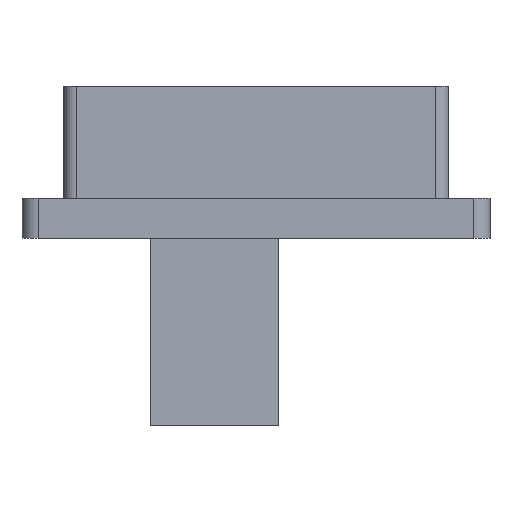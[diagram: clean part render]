
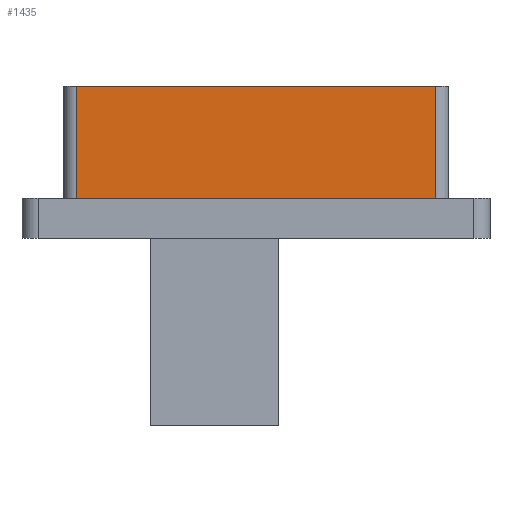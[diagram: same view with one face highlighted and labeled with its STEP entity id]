
A CAD part, left-side view. The second image highlights one B-rep face of the part: STEP entity #1435.
In plain terms, the highlighted planar face has unit normal (-1, 0, 0).
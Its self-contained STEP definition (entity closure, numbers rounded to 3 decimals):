
#44 = PLANE('',#45);
#45 = AXIS2_PLACEMENT_3D('',#46,#47,#48);
#46 = CARTESIAN_POINT('',(95.5,-77.2,20.9));
#47 = DIRECTION('',(0.,0.,1.));
#48 = DIRECTION('',(1.,0.,0.));
#446 = VERTEX_POINT('',#447);
#447 = CARTESIAN_POINT('',(100.,-73.8,20.9));
#464 = CYLINDRICAL_SURFACE('',#465,0.8);
#465 = AXIS2_PLACEMENT_3D('',#466,#467,#468);
#466 = CARTESIAN_POINT('',(100.8,-73.8,18.4));
#467 = DIRECTION('',(0.,0.,1.));
#468 = DIRECTION('',(-1.,-0.,0.));
#476 = EDGE_CURVE('',#446,#477,#479,.T.);
#477 = VERTEX_POINT('',#478);
#478 = CARTESIAN_POINT('',(100.,-51.4,20.9));
#479 = SURFACE_CURVE('',#480,(#484,#490),.PCURVE_S1.);
#480 = LINE('',#481,#482);
#481 = CARTESIAN_POINT('',(100.,-75.9,20.9));
#482 = VECTOR('',#483,1.);
#483 = DIRECTION('',(0.,1.,0.));
#484 = PCURVE('',#44,#485);
#485 = DEFINITIONAL_REPRESENTATION('',(#486),#489);
#486 = B_SPLINE_CURVE_WITH_KNOTS('',1,(#487,#488),.UNSPECIFIED.,.F.,.F.,
  (2,2),(2.1,24.5),.PIECEWISE_BEZIER_KNOTS.);
#487 = CARTESIAN_POINT('',(4.5,3.4));
#488 = CARTESIAN_POINT('',(4.5,25.8));
#489 = ( GEOMETRIC_REPRESENTATION_CONTEXT(2) 
PARAMETRIC_REPRESENTATION_CONTEXT() REPRESENTATION_CONTEXT('2D SPACE',''
  ) );
#490 = PCURVE('',#491,#496);
#491 = PLANE('',#492);
#492 = AXIS2_PLACEMENT_3D('',#493,#494,#495);
#493 = CARTESIAN_POINT('',(100.,-74.6,18.4));
#494 = DIRECTION('',(1.,0.,0.));
#495 = DIRECTION('',(0.,0.,1.));
#496 = DEFINITIONAL_REPRESENTATION('',(#497),#500);
#497 = B_SPLINE_CURVE_WITH_KNOTS('',1,(#498,#499),.UNSPECIFIED.,.F.,.F.,
  (2,2),(2.1,24.5),.PIECEWISE_BEZIER_KNOTS.);
#498 = CARTESIAN_POINT('',(2.5,-0.8));
#499 = CARTESIAN_POINT('',(2.5,-23.2));
#500 = ( GEOMETRIC_REPRESENTATION_CONTEXT(2) 
PARAMETRIC_REPRESENTATION_CONTEXT() REPRESENTATION_CONTEXT('2D SPACE',''
  ) );
#519 = CYLINDRICAL_SURFACE('',#520,0.8);
#520 = AXIS2_PLACEMENT_3D('',#521,#522,#523);
#521 = CARTESIAN_POINT('',(100.8,-51.4,18.4));
#522 = DIRECTION('',(0.,0.,1.));
#523 = DIRECTION('',(-1.,-0.,0.));
#1362 = EDGE_CURVE('',#446,#1363,#1365,.T.);
#1363 = VERTEX_POINT('',#1364);
#1364 = CARTESIAN_POINT('',(100.,-73.8,27.9));
#1365 = SURFACE_CURVE('',#1366,(#1370,#1377),.PCURVE_S1.);
#1366 = LINE('',#1367,#1368);
#1367 = CARTESIAN_POINT('',(100.,-73.8,18.4));
#1368 = VECTOR('',#1369,1.);
#1369 = DIRECTION('',(0.,0.,1.));
#1370 = PCURVE('',#464,#1371);
#1371 = DEFINITIONAL_REPRESENTATION('',(#1372),#1376);
#1372 = LINE('',#1373,#1374);
#1373 = CARTESIAN_POINT('',(0.,0.));
#1374 = VECTOR('',#1375,1.);
#1375 = DIRECTION('',(0.,1.));
#1376 = ( GEOMETRIC_REPRESENTATION_CONTEXT(2) 
PARAMETRIC_REPRESENTATION_CONTEXT() REPRESENTATION_CONTEXT('2D SPACE',''
  ) );
#1377 = PCURVE('',#491,#1378);
#1378 = DEFINITIONAL_REPRESENTATION('',(#1379),#1383);
#1379 = LINE('',#1380,#1381);
#1380 = CARTESIAN_POINT('',(0.,-0.8));
#1381 = VECTOR('',#1382,1.);
#1382 = DIRECTION('',(1.,0.));
#1383 = ( GEOMETRIC_REPRESENTATION_CONTEXT(2) 
PARAMETRIC_REPRESENTATION_CONTEXT() REPRESENTATION_CONTEXT('2D SPACE',''
  ) );
#1424 = PLANE('',#1425);
#1425 = AXIS2_PLACEMENT_3D('',#1426,#1427,#1428);
#1426 = CARTESIAN_POINT('',(100.,-74.6,27.9));
#1427 = DIRECTION('',(0.,0.,1.));
#1428 = DIRECTION('',(1.,0.,0.));
#1435 = ADVANCED_FACE('',(#1436),#491,.F.);
#1436 = FACE_BOUND('',#1437,.F.);
#1437 = EDGE_LOOP('',(#1438,#1461,#1462,#1463));
#1438 = ORIENTED_EDGE('',*,*,#1439,.F.);
#1439 = EDGE_CURVE('',#1363,#1440,#1442,.T.);
#1440 = VERTEX_POINT('',#1441);
#1441 = CARTESIAN_POINT('',(100.,-51.4,27.9));
#1442 = SURFACE_CURVE('',#1443,(#1447,#1454),.PCURVE_S1.);
#1443 = LINE('',#1444,#1445);
#1444 = CARTESIAN_POINT('',(100.,-74.6,27.9));
#1445 = VECTOR('',#1446,1.);
#1446 = DIRECTION('',(0.,1.,0.));
#1447 = PCURVE('',#491,#1448);
#1448 = DEFINITIONAL_REPRESENTATION('',(#1449),#1453);
#1449 = LINE('',#1450,#1451);
#1450 = CARTESIAN_POINT('',(9.5,0.));
#1451 = VECTOR('',#1452,1.);
#1452 = DIRECTION('',(0.,-1.));
#1453 = ( GEOMETRIC_REPRESENTATION_CONTEXT(2) 
PARAMETRIC_REPRESENTATION_CONTEXT() REPRESENTATION_CONTEXT('2D SPACE',''
  ) );
#1454 = PCURVE('',#1424,#1455);
#1455 = DEFINITIONAL_REPRESENTATION('',(#1456),#1460);
#1456 = LINE('',#1457,#1458);
#1457 = CARTESIAN_POINT('',(0.,0.));
#1458 = VECTOR('',#1459,1.);
#1459 = DIRECTION('',(0.,1.));
#1460 = ( GEOMETRIC_REPRESENTATION_CONTEXT(2) 
PARAMETRIC_REPRESENTATION_CONTEXT() REPRESENTATION_CONTEXT('2D SPACE',''
  ) );
#1461 = ORIENTED_EDGE('',*,*,#1362,.F.);
#1462 = ORIENTED_EDGE('',*,*,#476,.T.);
#1463 = ORIENTED_EDGE('',*,*,#1464,.T.);
#1464 = EDGE_CURVE('',#477,#1440,#1465,.T.);
#1465 = SURFACE_CURVE('',#1466,(#1470,#1477),.PCURVE_S1.);
#1466 = LINE('',#1467,#1468);
#1467 = CARTESIAN_POINT('',(100.,-51.4,18.4));
#1468 = VECTOR('',#1469,1.);
#1469 = DIRECTION('',(0.,0.,1.));
#1470 = PCURVE('',#491,#1471);
#1471 = DEFINITIONAL_REPRESENTATION('',(#1472),#1476);
#1472 = LINE('',#1473,#1474);
#1473 = CARTESIAN_POINT('',(0.,-23.2));
#1474 = VECTOR('',#1475,1.);
#1475 = DIRECTION('',(1.,0.));
#1476 = ( GEOMETRIC_REPRESENTATION_CONTEXT(2) 
PARAMETRIC_REPRESENTATION_CONTEXT() REPRESENTATION_CONTEXT('2D SPACE',''
  ) );
#1477 = PCURVE('',#519,#1478);
#1478 = DEFINITIONAL_REPRESENTATION('',(#1479),#1483);
#1479 = LINE('',#1480,#1481);
#1480 = CARTESIAN_POINT('',(-0.,0.));
#1481 = VECTOR('',#1482,1.);
#1482 = DIRECTION('',(-0.,1.));
#1483 = ( GEOMETRIC_REPRESENTATION_CONTEXT(2) 
PARAMETRIC_REPRESENTATION_CONTEXT() REPRESENTATION_CONTEXT('2D SPACE',''
  ) );
